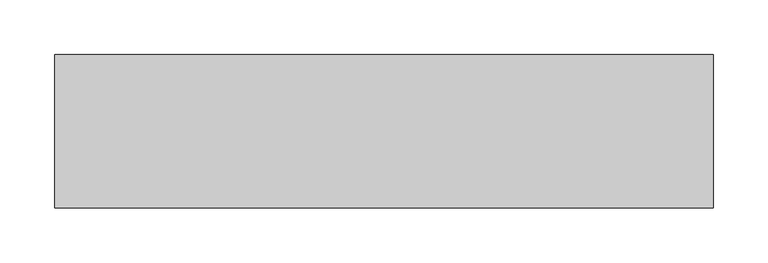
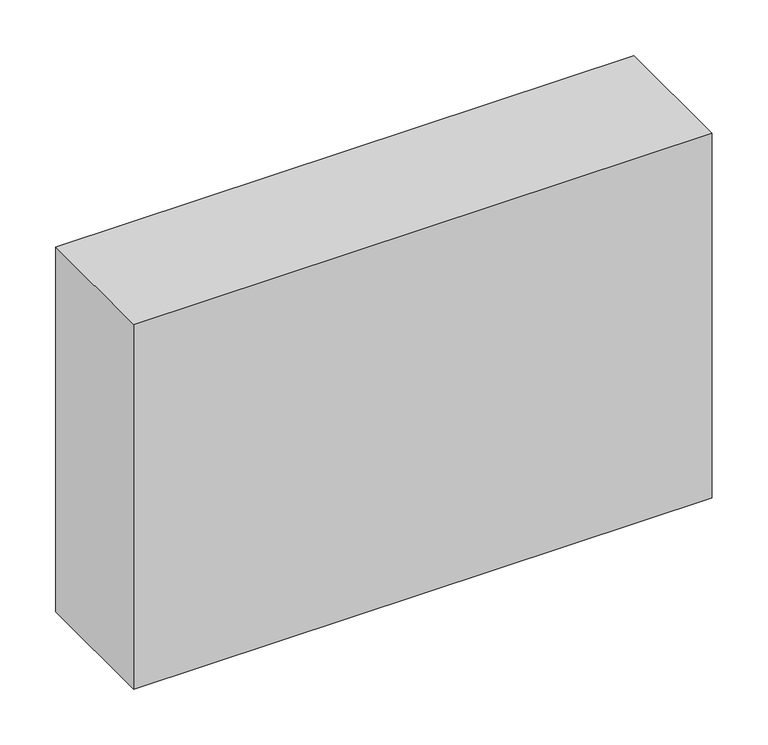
"""IFC4 building model written with IfcOpenShell, lengths in millimetres: proxy geometry, Módulo de Vedação de Concreto Celular - Celucon : MVCC 14x40x60cm (L x A x C)."""

from ifc_helpers import new_model, si_unit, origin, origin_with_axes, place, context, project, spatial, polyline, outline, extrude, source, transform, mapped, element, save


def generic_models_684ff88b(model_context):
    return source(origin(), model_context, "Body", "SweptSolid", [
        extrude(outline(polyline([(300.0, 70.0), (300.0, -70.0), (-300.0, -70.0), (-300.0, 70.0), (300.0, 70.0)])), origin_with_axes(), (0.0, 0.0, 1.0), 400.0),
    ])


if __name__ == "__main__":
    model = new_model("IFC4")
    model_context = context("Model", 3, world=origin())
    ifc_project = project(units=[si_unit("LENGTHUNIT", "METRE", prefix="MILLI")], contexts=[model_context])
    site = spatial("IfcSite", under=ifc_project)
    building = spatial("IfcBuilding", under=site)
    placement = place(None, origin())
    generic_models_shape = generic_models_684ff88b(model_context)
    element("IfcBuildingElementProxy", 1, Name="Módulo de Vedação de Concreto Celular - Celucon : MVCC 14x40x60cm (L x A x C)", ObjectType="Módulo de Vedação de Concreto Celular - Celucon : MVCC 14x40x60cm (L x A x C)", at=placement, inside=building, context=model_context, shape_type="MappedRepresentation", body=[
        mapped(generic_models_shape, transform((0.0, 0.0, 0.0), x_axis=(1.0, 0.0, 0.0), y_axis=(0.0, 1.0, 0.0), z_axis=(0.0, 0.0, 1.0))),
    ])
    save(model, "model.ifc")
